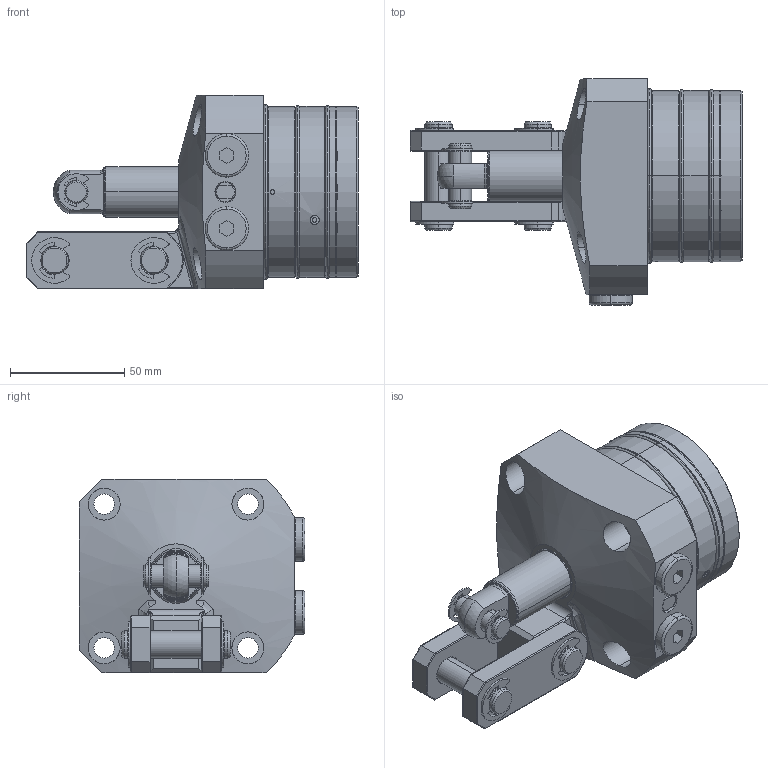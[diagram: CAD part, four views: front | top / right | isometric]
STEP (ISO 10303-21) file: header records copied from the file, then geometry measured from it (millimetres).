
FILE_DESCRIPTION(/* description */ (''),/* implementation_level */ '2;1');
FILE_NAME(/* name */ 'KTPW75-LE.stp',/* time_stamp */ '2022-11-19T16:21:41+08:00',/* author */ (''),/* organization */ (''),/* preprocessor_version */ 'ST-DEVELOPER v16.7',/* originating_system */ 'SIEMENS PLM Software NX 12.0',/* authorisation */ '');
FILE_SCHEMA (('AP203_CONFIGURATION_CONTROLLED_3D_DESIGN_OF_MECHANICAL_PARTS_AND_ASSEMBLIES_MIM_LF { 1 0 10303 403 2 1 2}'));
Length unit declared in the file: millimetre
Products named in the file (11): KTPW75-LE-03; KTPW75-LE-01; KTPW75-LE-02; KTPW75-LE-04; KTPW75-LE-07; KTPW75-LE-06; KTPW75-LE-010; KTPW75-LE-08; KTPW75-LE-05; KTPW75-LE-09; LKW0751-CLE_step
Assembly tree (19 placements, depth 2):
  LKW0751-CLE_step
    KTPW75-LE-09  x2
    KTPW75-LE-05  x2
    KTPW75-LE-08  x2
    KTPW75-LE-010  x3
    KTPW75-LE-06
    KTPW75-LE-07  x4
    KTPW75-LE-04  x2
    KTPW75-LE-02
    KTPW75-LE-01
    KTPW75-LE-03
Bounding box: 145.5 x 99 x 85 mm (x, y, z)
Volume: 476983 mm3; surface area: 84394 mm2
Topology: 22 solids, 22 shells, 689 faces, 1594 edges, 987 vertices
Faces by surface type: cylinder 294, plane 177, torus 132, cone 74, bspline 10, sphere 2
Full cylindrical faces by diameter (mm): 75 x1
Entity records: 14528 total; most frequent: CARTESIAN_POINT 3232, DIRECTION 2247, ORIENTED_EDGE 1906, EDGE_CURVE 953, AXIS2_PLACEMENT_3D 948, VERTEX_POINT 586, CIRCLE 514, EDGE_LOOP 479
